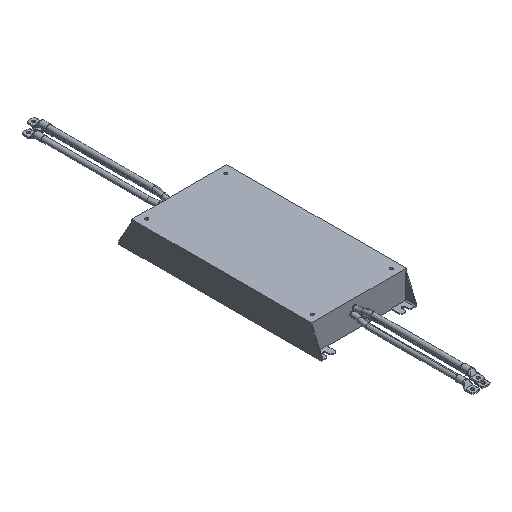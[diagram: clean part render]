
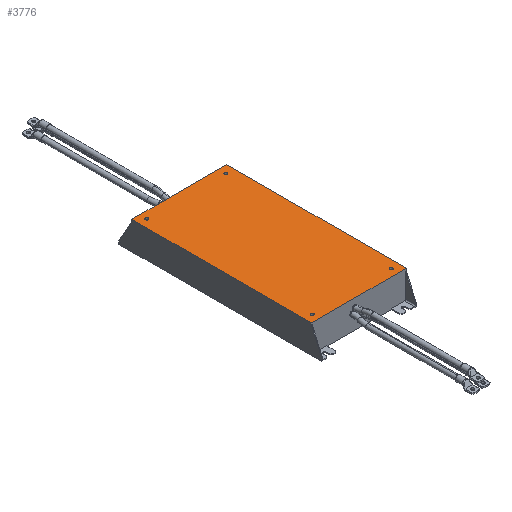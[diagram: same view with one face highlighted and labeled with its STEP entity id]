
A CAD part, isometric view. The second image highlights one B-rep face of the part: STEP entity #3776.
In plain terms, the highlighted planar face has unit normal (0, 0, 1).
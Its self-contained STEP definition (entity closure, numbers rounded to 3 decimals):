
#146 = CARTESIAN_POINT ( 'NONE',  ( 165., -625., 0. ) ) ;
#387 = VERTEX_POINT ( 'NONE', #4337 ) ;
#411 = ORIENTED_EDGE ( 'NONE', *, *, #5598, .F. ) ;
#418 = AXIS2_PLACEMENT_3D ( 'NONE', #2980, #8087, #2912 ) ;
#470 = EDGE_LOOP ( 'NONE', ( #6861, #411 ) ) ;
#578 = CARTESIAN_POINT ( 'NONE',  ( 165., 0., 0. ) ) ;
#1004 = VECTOR ( 'NONE', #10388, 1000. ) ;
#1079 = VERTEX_POINT ( 'NONE', #10417 ) ;
#1268 = DIRECTION ( 'NONE',  ( 1., 0., 0. ) ) ;
#1363 = ORIENTED_EDGE ( 'NONE', *, *, #8347, .T. ) ;
#1503 = CARTESIAN_POINT ( 'NONE',  ( -165., -625., 0. ) ) ;
#1522 = ORIENTED_EDGE ( 'NONE', *, *, #12502, .F. ) ;
#1625 = EDGE_CURVE ( 'NONE', #7118, #387, #7232, .T. ) ;
#1877 = EDGE_CURVE ( 'NONE', #7814, #13298, #7384, .T. ) ;
#1967 = LINE ( 'NONE', #3946, #8988 ) ;
#2029 = FACE_BOUND ( 'NONE', #4711, .T. ) ;
#2267 = ORIENTED_EDGE ( 'NONE', *, *, #1625, .T. ) ;
#2269 = CARTESIAN_POINT ( 'NONE',  ( -137.5, -600., 0. ) ) ;
#2328 = AXIS2_PLACEMENT_3D ( 'NONE', #9036, #7093, #2733 ) ;
#2690 = CARTESIAN_POINT ( 'NONE',  ( -132.5, -25., 0. ) ) ;
#2733 = DIRECTION ( 'NONE',  ( 1., 0., 0. ) ) ;
#2740 = CIRCLE ( 'NONE', #2983, 5. ) ;
#2912 = DIRECTION ( 'NONE',  ( 1., 0., 0. ) ) ;
#2926 = ORIENTED_EDGE ( 'NONE', *, *, #1877, .F. ) ;
#2980 = CARTESIAN_POINT ( 'NONE',  ( 0., 0., 0. ) ) ;
#2983 = AXIS2_PLACEMENT_3D ( 'NONE', #4433, #10788, #4177 ) ;
#3025 = VERTEX_POINT ( 'NONE', #2690 ) ;
#3306 = VERTEX_POINT ( 'NONE', #5763 ) ;
#3521 = EDGE_CURVE ( 'NONE', #10335, #7118, #1967, .T. ) ;
#3638 = DIRECTION ( 'NONE',  ( 1., 0., 0. ) ) ;
#3776 = ADVANCED_FACE ( 'NONE', ( #13373, #2029, #13510, #11460, #9416 ), #11307, .T. ) ;
#3946 = CARTESIAN_POINT ( 'NONE',  ( 165., 0., 0. ) ) ;
#4162 = ORIENTED_EDGE ( 'NONE', *, *, #12266, .F. ) ;
#4177 = DIRECTION ( 'NONE',  ( 1., 0., 0. ) ) ;
#4337 = CARTESIAN_POINT ( 'NONE',  ( -165., 0., 0. ) ) ;
#4348 = VECTOR ( 'NONE', #3638, 1000. ) ;
#4433 = CARTESIAN_POINT ( 'NONE',  ( 137.5, -600., 0. ) ) ;
#4520 = DIRECTION ( 'NONE',  ( 1., 0., 0. ) ) ;
#4711 = EDGE_LOOP ( 'NONE', ( #4162, #10184 ) ) ;
#5001 = EDGE_CURVE ( 'NONE', #9574, #3025, #11655, .T. ) ;
#5126 = DIRECTION ( 'NONE',  ( 0., 1., 0. ) ) ;
#5279 = DIRECTION ( 'NONE',  ( 0., 0., 1. ) ) ;
#5360 = DIRECTION ( 'NONE',  ( 1., 0., 0. ) ) ;
#5381 = DIRECTION ( 'NONE',  ( 0., 0., 1. ) ) ;
#5478 = ORIENTED_EDGE ( 'NONE', *, *, #3521, .T. ) ;
#5572 = LINE ( 'NONE', #8903, #12463 ) ;
#5598 = EDGE_CURVE ( 'NONE', #1079, #6204, #10745, .T. ) ;
#5694 = AXIS2_PLACEMENT_3D ( 'NONE', #11023, #6836, #7799 ) ;
#5763 = CARTESIAN_POINT ( 'NONE',  ( 142.5, -25., 0. ) ) ;
#6188 = CARTESIAN_POINT ( 'NONE',  ( -165., 0., 0. ) ) ;
#6193 = EDGE_LOOP ( 'NONE', ( #2267, #11243, #1363, #5478 ) ) ;
#6204 = VERTEX_POINT ( 'NONE', #9100 ) ;
#6448 = CARTESIAN_POINT ( 'NONE',  ( -142.5, -25., 0. ) ) ;
#6680 = CARTESIAN_POINT ( 'NONE',  ( -165., -625., 0. ) ) ;
#6751 = LINE ( 'NONE', #6680, #4348 ) ;
#6836 = DIRECTION ( 'NONE',  ( 0., 0., 1. ) ) ;
#6844 = ORIENTED_EDGE ( 'NONE', *, *, #9451, .F. ) ;
#6861 = ORIENTED_EDGE ( 'NONE', *, *, #11696, .F. ) ;
#7093 = DIRECTION ( 'NONE',  ( 0., 0., 1. ) ) ;
#7118 = VERTEX_POINT ( 'NONE', #578 ) ;
#7232 = LINE ( 'NONE', #6188, #1004 ) ;
#7384 = CIRCLE ( 'NONE', #9800, 5. ) ;
#7406 = EDGE_CURVE ( 'NONE', #387, #12353, #5572, .T. ) ;
#7799 = DIRECTION ( 'NONE',  ( 1., 0., 0. ) ) ;
#7814 = VERTEX_POINT ( 'NONE', #7832 ) ;
#7832 = CARTESIAN_POINT ( 'NONE',  ( -142.5, -600., 0. ) ) ;
#8087 = DIRECTION ( 'NONE',  ( 0., 0., 1. ) ) ;
#8252 = ORIENTED_EDGE ( 'NONE', *, *, #13495, .F. ) ;
#8270 = VERTEX_POINT ( 'NONE', #8561 ) ;
#8347 = EDGE_CURVE ( 'NONE', #12353, #10335, #6751, .T. ) ;
#8359 = CARTESIAN_POINT ( 'NONE',  ( 137.5, -25., 0. ) ) ;
#8523 = DIRECTION ( 'NONE',  ( 1., 0., 0. ) ) ;
#8561 = CARTESIAN_POINT ( 'NONE',  ( 132.5, -25., 0. ) ) ;
#8702 = DIRECTION ( 'NONE',  ( 0., -1., 0. ) ) ;
#8742 = AXIS2_PLACEMENT_3D ( 'NONE', #8359, #12688, #4520 ) ;
#8903 = CARTESIAN_POINT ( 'NONE',  ( -165., 0., 0. ) ) ;
#8988 = VECTOR ( 'NONE', #5126, 1000. ) ;
#9036 = CARTESIAN_POINT ( 'NONE',  ( -137.5, -25., 0. ) ) ;
#9100 = CARTESIAN_POINT ( 'NONE',  ( 142.5, -600., 0. ) ) ;
#9416 = FACE_BOUND ( 'NONE', #10897, .T. ) ;
#9451 = EDGE_CURVE ( 'NONE', #3306, #8270, #10355, .T. ) ;
#9453 = AXIS2_PLACEMENT_3D ( 'NONE', #9581, #9975, #11826 ) ;
#9574 = VERTEX_POINT ( 'NONE', #6448 ) ;
#9581 = CARTESIAN_POINT ( 'NONE',  ( 137.5, -600., 0. ) ) ;
#9800 = AXIS2_PLACEMENT_3D ( 'NONE', #13579, #5381, #1268 ) ;
#9975 = DIRECTION ( 'NONE',  ( 0., 0., 1. ) ) ;
#10184 = ORIENTED_EDGE ( 'NONE', *, *, #5001, .F. ) ;
#10335 = VERTEX_POINT ( 'NONE', #146 ) ;
#10355 = CIRCLE ( 'NONE', #12556, 5. ) ;
#10388 = DIRECTION ( 'NONE',  ( -1., 0., 0. ) ) ;
#10417 = CARTESIAN_POINT ( 'NONE',  ( 132.5, -600., 0. ) ) ;
#10477 = CIRCLE ( 'NONE', #2328, 5. ) ;
#10745 = CIRCLE ( 'NONE', #9453, 5. ) ;
#10788 = DIRECTION ( 'NONE',  ( 0., 0., 1. ) ) ;
#10897 = EDGE_LOOP ( 'NONE', ( #6844, #8252 ) ) ;
#11023 = CARTESIAN_POINT ( 'NONE',  ( -137.5, -25., 0. ) ) ;
#11243 = ORIENTED_EDGE ( 'NONE', *, *, #7406, .T. ) ;
#11307 = PLANE ( 'NONE',  #418 ) ;
#11460 = FACE_BOUND ( 'NONE', #470, .T. ) ;
#11655 = CIRCLE ( 'NONE', #5694, 5. ) ;
#11681 = CARTESIAN_POINT ( 'NONE',  ( 137.5, -25., 0. ) ) ;
#11696 = EDGE_CURVE ( 'NONE', #6204, #1079, #2740, .T. ) ;
#11826 = DIRECTION ( 'NONE',  ( 1., 0., 0. ) ) ;
#12207 = AXIS2_PLACEMENT_3D ( 'NONE', #2269, #12600, #5360 ) ;
#12262 = CARTESIAN_POINT ( 'NONE',  ( -132.5, -600., 0. ) ) ;
#12266 = EDGE_CURVE ( 'NONE', #3025, #9574, #10477, .T. ) ;
#12353 = VERTEX_POINT ( 'NONE', #1503 ) ;
#12459 = EDGE_LOOP ( 'NONE', ( #1522, #2926 ) ) ;
#12463 = VECTOR ( 'NONE', #8702, 1000. ) ;
#12502 = EDGE_CURVE ( 'NONE', #13298, #7814, #13543, .T. ) ;
#12556 = AXIS2_PLACEMENT_3D ( 'NONE', #11681, #5279, #8523 ) ;
#12600 = DIRECTION ( 'NONE',  ( 0., 0., 1. ) ) ;
#12688 = DIRECTION ( 'NONE',  ( 0., 0., 1. ) ) ;
#13298 = VERTEX_POINT ( 'NONE', #12262 ) ;
#13373 = FACE_OUTER_BOUND ( 'NONE', #6193, .T. ) ;
#13495 = EDGE_CURVE ( 'NONE', #8270, #3306, #13562, .T. ) ;
#13510 = FACE_BOUND ( 'NONE', #12459, .T. ) ;
#13543 = CIRCLE ( 'NONE', #12207, 5. ) ;
#13562 = CIRCLE ( 'NONE', #8742, 5. ) ;
#13579 = CARTESIAN_POINT ( 'NONE',  ( -137.5, -600., 0. ) ) ;
